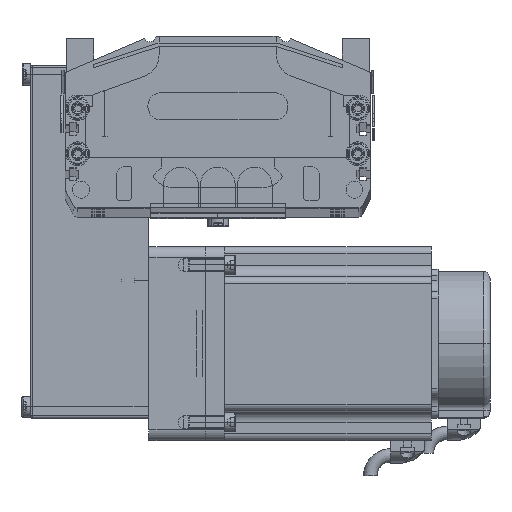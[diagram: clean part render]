
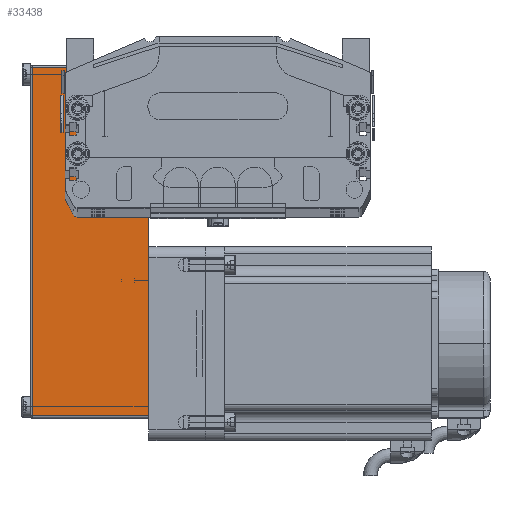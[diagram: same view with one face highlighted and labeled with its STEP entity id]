
A CAD part, top view. The second image highlights one B-rep face of the part: STEP entity #33438.
In plain terms, the highlighted planar face has unit normal (0, 0, 1) as drawn and (0, -1, 0) by its records, which use the part's own axes.
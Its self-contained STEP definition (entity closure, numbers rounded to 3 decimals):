
#2303 = VERTEX_POINT ( 'NONE', #57135 ) ;
#2473 = EDGE_CURVE ( 'NONE', #2303, #2543, #58174, .T. ) ;
#2543 = VERTEX_POINT ( 'NONE', #58450 ) ;
#33435 = VERTEX_POINT ( 'NONE', #83880 ) ;
#33438 = ADVANCED_FACE ( 'NONE', ( #83878 ), #83882, .F. ) ;
#33468 = EDGE_CURVE ( 'NONE', #2543, #33579, #83941, .T. ) ;
#33541 = EDGE_LOOP ( 'NONE', ( #33604, #33714, #33575, #33591 ) ) ;
#33575 = ORIENTED_EDGE ( 'NONE', *, *, #33578, .T. ) ;
#33577 = EDGE_CURVE ( 'NONE', #33435, #2303, #84080, .T. ) ;
#33578 = EDGE_CURVE ( 'NONE', #33579, #33435, #83771, .T. ) ;
#33579 = VERTEX_POINT ( 'NONE', #84081 ) ;
#33591 = ORIENTED_EDGE ( 'NONE', *, *, #33577, .T. ) ;
#33604 = ORIENTED_EDGE ( 'NONE', *, *, #2473, .T. ) ;
#33714 = ORIENTED_EDGE ( 'NONE', *, *, #33468, .T. ) ;
#57135 = CARTESIAN_POINT ( 'NONE',  ( -123.2, -40., 0. ) ) ;
#58171 = DIRECTION ( 'NONE',  ( 1., 0., 0. ) ) ;
#58172 = VECTOR ( 'NONE', #58171, 1000. ) ;
#58173 = CARTESIAN_POINT ( 'NONE',  ( 32., -40., 0. ) ) ;
#58174 = LINE ( 'NONE', #58173, #58172 ) ;
#58450 = CARTESIAN_POINT ( 'NONE',  ( 31., -40., 0. ) ) ;
#83753 = DIRECTION ( 'NONE',  ( -1., 0., 0. ) ) ;
#83754 = VECTOR ( 'NONE', #83753, 1000. ) ;
#83755 = CARTESIAN_POINT ( 'NONE',  ( 32., -40., 51.5 ) ) ;
#83771 = LINE ( 'NONE', #83755, #83754 ) ;
#83861 = DIRECTION ( 'NONE',  ( -1., 0., 0. ) ) ;
#83862 = DIRECTION ( 'NONE',  ( 0., 1., 0. ) ) ;
#83863 = AXIS2_PLACEMENT_3D ( 'NONE', #83881, #83862, #83861 ) ;
#83878 = FACE_OUTER_BOUND ( 'NONE', #33541, .T. ) ;
#83880 = CARTESIAN_POINT ( 'NONE',  ( -123.2, -40., 51.5 ) ) ;
#83881 = CARTESIAN_POINT ( 'NONE',  ( 32., -40., 52.5 ) ) ;
#83882 = PLANE ( 'NONE',  #83863 ) ;
#83938 = DIRECTION ( 'NONE',  ( 0., 0., 1. ) ) ;
#83939 = VECTOR ( 'NONE', #83938, 1000. ) ;
#83940 = CARTESIAN_POINT ( 'NONE',  ( 31., -40., 52.5 ) ) ;
#83941 = LINE ( 'NONE', #83940, #83939 ) ;
#84067 = DIRECTION ( 'NONE',  ( 0., 0., -1. ) ) ;
#84068 = VECTOR ( 'NONE', #84067, 1000. ) ;
#84069 = CARTESIAN_POINT ( 'NONE',  ( -123.2, -40., 52.5 ) ) ;
#84080 = LINE ( 'NONE', #84069, #84068 ) ;
#84081 = CARTESIAN_POINT ( 'NONE',  ( 31., -40., 51.5 ) ) ;
